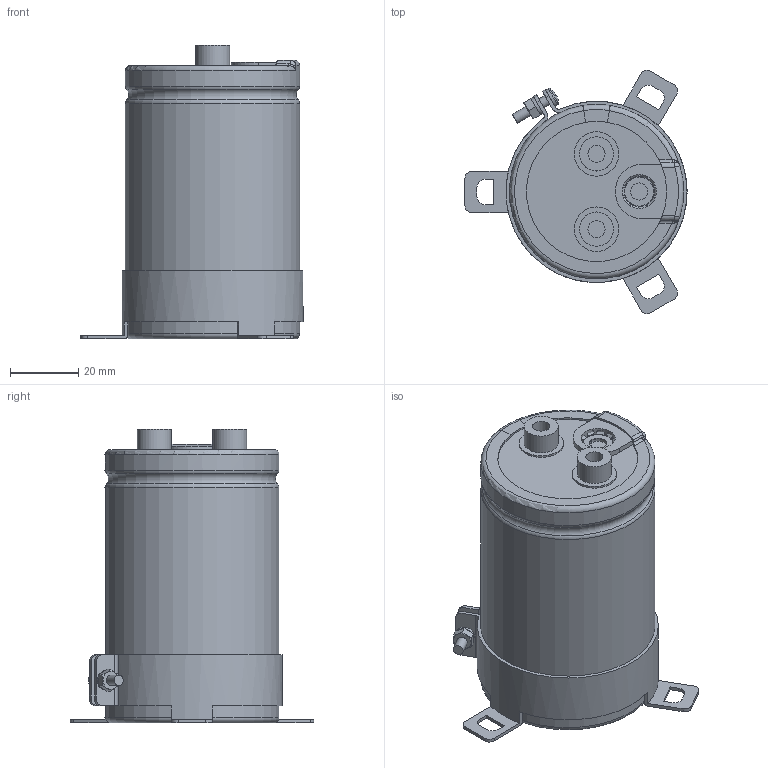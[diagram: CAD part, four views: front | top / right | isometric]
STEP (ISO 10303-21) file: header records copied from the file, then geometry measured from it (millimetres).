
FILE_DESCRIPTION(/* description */ (''),/* implementation_level */ '2;1');
FILE_NAME(/* name */ '51x80_Screw.stp',/* time_stamp */ '2017-09-15T13:41:39+09:00',/* author */ (''),/* organization */ (''),/* preprocessor_version */ 'ST-DEVELOPER v16',/* originating_system */ 'SIEMENS PLM Software NX 11.0',/* authorisation */ '');
FILE_SCHEMA (('AUTOMOTIVE_DESIGN { 1 0 10303 214 3 1 1 1 }'));
Length unit declared in the file: millimetre
Products named in the file (1): 51x80_Screw
Bounding box: 65 x 71.22 x 86 mm (x, y, z)
Volume: 165411.2 mm3; surface area: 52823.6 mm2
Topology: 9 solids, 9 shells, 298 faces, 744 edges, 471 vertices
Faces by surface type: plane 118, cylinder 78, torus 54, cone 31, bspline 12, sphere 5
Full cylindrical faces by diameter (mm): 3 x5, 5 x6, 5.5 x2, 10 x4, 13 x2, 49.8 x2
Entity records: 10562 total; most frequent: CARTESIAN_POINT 3129, DIRECTION 1450, ORIENTED_EDGE 1410, EDGE_CURVE 705, AXIS2_PLACEMENT_3D 606, VERTEX_POINT 464, EDGE_LOOP 353, CIRCLE 319
